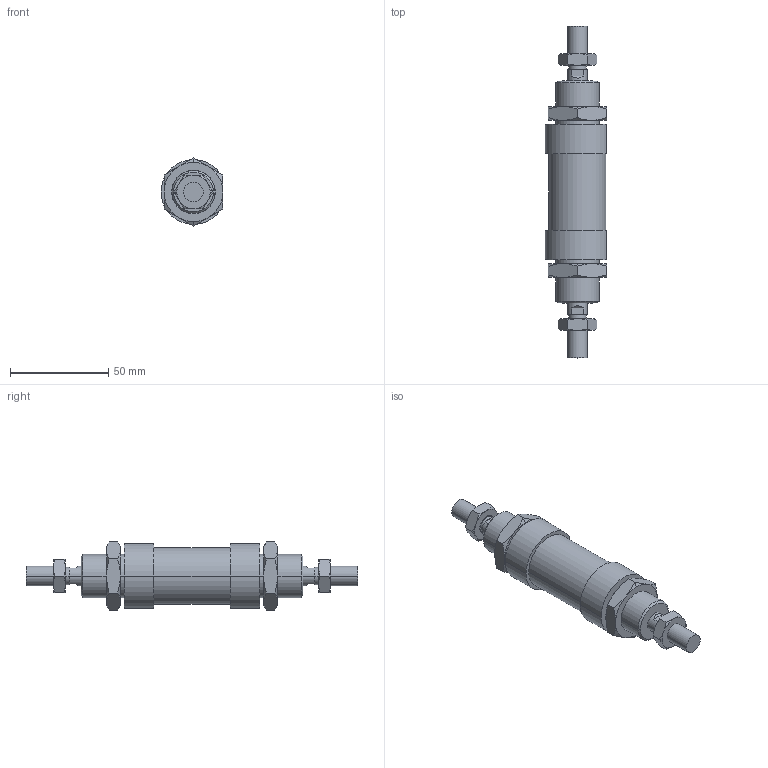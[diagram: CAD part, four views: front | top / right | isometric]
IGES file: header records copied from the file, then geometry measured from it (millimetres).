
Global section: file name: No Iges File Name specified; native system: AutoDesk Inventor R6.0; preprocessor: AutoDesk Inventor Iges Exporter R6.0; author: No Author specified; organization: No Organization specified; date: 20030403.072419; units: millimetre
Bounding box: 31.5 x 169 x 34.64 mm (x, y, z)
Volume: 79014.2 mm3; surface area: 26664.3 mm2
Topology: 6 solids, 6 shells, 184 faces, 396 edges, 232 vertices
Faces by surface type: cone 68, plane 60, bspline 30, cylinder 20, revolution 6
